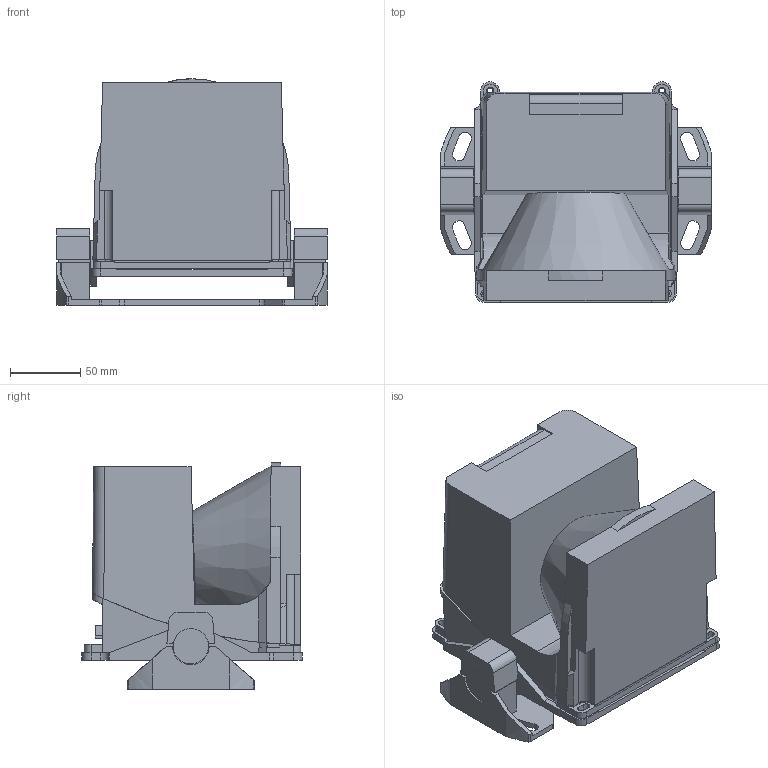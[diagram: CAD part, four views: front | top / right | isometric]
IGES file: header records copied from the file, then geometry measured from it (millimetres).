
Global section: file name: No Iges File Name specified; native system: AutoDesk Inventor R12.0; preprocessor: AutoDesk Inventor Iges Exporter R12.0; author: No Author specified; organization: No Organization specified; date: 20080411.135924; units: millimetre
Bounding box: 192 x 156.45 x 160.74 mm (x, y, z)
Volume: 624437.4 mm3; surface area: 346667.6 mm2
Topology: 7 solids, 10 shells, 368 faces, 1044 edges, 693 vertices
Faces by surface type: plane 223, revolution 80, cylinder 62, cone 3
